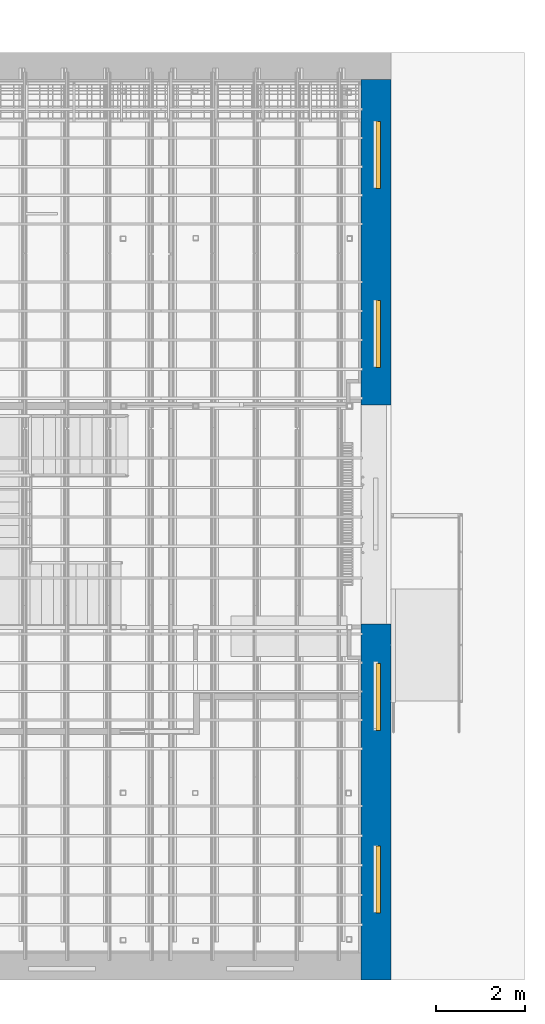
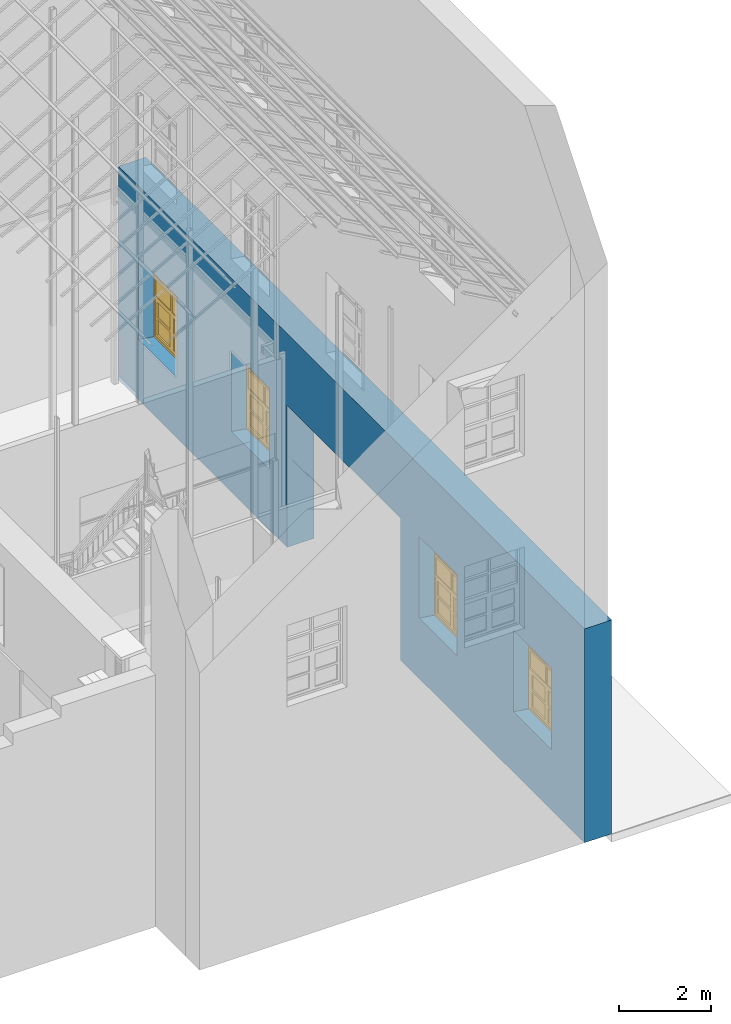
# One storey, part 41 of 75: 4 windows, 1 wall, 7 openings.
"""IFC2X3 building model written with IfcOpenShell, lengths in metres."""

from ifc_helpers import new_model, entity, si_unit, converted_unit, derived_unit, direction, frame, frame_2d, origin, origin_2d_with_axis, place, context, subcontext, project, spatial, polyline, rectangle, outline, extrude, faceted_brep, source, transform, mapped, material, material_list, layer, layer_set, layer_usage, type_object, type_shapes, element, fill, save


model = new_model("IFC2X3")

# Units and contexts
model_context = context("Model", 3, precision=1e-05, world=origin(), true_north=direction((6.12303176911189e-17, 1.0)))
body_context = subcontext(model_context, "Body", "Model", "MODEL_VIEW")
ifc_project = project(units=[si_unit("LENGTHUNIT", "METRE"), si_unit("AREAUNIT", "SQUARE_METRE"), si_unit("VOLUMEUNIT", "CUBIC_METRE"), converted_unit("PLANEANGLEUNIT", "DEGREE", entity("IfcRatioMeasure", 0.0174532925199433), si_unit("PLANEANGLEUNIT", "RADIAN"), dimensions=[0, 0, 0, 0, 0, 0, 0]), si_unit("MASSUNIT", "GRAM", prefix="KILO"), derived_unit("MASSDENSITYUNIT", [(si_unit("MASSUNIT", "GRAM", prefix="KILO"), 1), (si_unit("LENGTHUNIT", "METRE"), -3)]), derived_unit("MOMENTOFINERTIAUNIT", [(si_unit("LENGTHUNIT", "METRE"), 4)]), si_unit("TIMEUNIT", "SECOND"), si_unit("FREQUENCYUNIT", "HERTZ"), si_unit("THERMODYNAMICTEMPERATUREUNIT", "DEGREE_CELSIUS"), derived_unit("THERMALTRANSMITTANCEUNIT", [(si_unit("MASSUNIT", "GRAM", prefix="KILO"), 1), (si_unit("THERMODYNAMICTEMPERATUREUNIT", "KELVIN"), -1), (si_unit("TIMEUNIT", "SECOND"), -3)]), derived_unit("VOLUMETRICFLOWRATEUNIT", [(si_unit("LENGTHUNIT", "METRE"), 3), (si_unit("TIMEUNIT", "SECOND"), -1)]), si_unit("ELECTRICCURRENTUNIT", "AMPERE"), si_unit("ELECTRICVOLTAGEUNIT", "VOLT"), si_unit("POWERUNIT", "WATT"), si_unit("FORCEUNIT", "NEWTON", prefix="KILO"), si_unit("ILLUMINANCEUNIT", "LUX"), si_unit("LUMINOUSFLUXUNIT", "LUMEN"), si_unit("LUMINOUSINTENSITYUNIT", "CANDELA"), derived_unit("USERDEFINED", [(si_unit("MASSUNIT", "GRAM", prefix="KILO"), -1), (si_unit("LENGTHUNIT", "METRE"), -2), (si_unit("TIMEUNIT", "SECOND"), 3), (si_unit("LUMINOUSFLUXUNIT", "LUMEN"), 1)]), derived_unit("LINEARVELOCITYUNIT", [(si_unit("LENGTHUNIT", "METRE"), 1), (si_unit("TIMEUNIT", "SECOND"), -1)]), si_unit("PRESSUREUNIT", "PASCAL"), derived_unit("USERDEFINED", [(si_unit("LENGTHUNIT", "METRE"), -2), (si_unit("MASSUNIT", "GRAM", prefix="KILO"), 1), (si_unit("TIMEUNIT", "SECOND"), -2)]), derived_unit("LINEARFORCEUNIT", [(si_unit("MASSUNIT", "GRAM", prefix="KILO"), 1), (si_unit("LENGTHUNIT", "METRE"), 1), (si_unit("TIMEUNIT", "SECOND"), -2), (si_unit("LENGTHUNIT", "METRE"), -1)]), derived_unit("PLANARFORCEUNIT", [(si_unit("MASSUNIT", "GRAM", prefix="KILO"), 1), (si_unit("LENGTHUNIT", "METRE"), 1), (si_unit("TIMEUNIT", "SECOND"), -2), (si_unit("LENGTHUNIT", "METRE"), -2)])], contexts=[model_context])

# Site, building, storey
site_placement = place(None, origin())
site = spatial("IfcSite", under=ifc_project, at=site_placement, Name="Superficie", CompositionType="ELEMENT")
building_placement = place(site_placement, origin())
building = spatial("IfcBuilding", under=site, at=building_placement, Name="Telegestiones", CompositionType="ELEMENT")
storey_placement = place(building_placement, origin())
storey = spatial("IfcBuildingStorey", under=building, at=storey_placement, Name="Nivel 0_NPT", CompositionType="ELEMENT", Elevation=0.0)

# Wall, openings, windows
ifc_material_1 = material(Name="Albañilería expuesta")
ifc_layer_1 = layer(ifc_material_1, 0.12)
ifc_material_2 = material(Name="Muro por defecto")
ifc_layer_2 = layer(ifc_material_2, 0.56)
ifc_layer_set = layer_set([ifc_layer_1, ifc_layer_2], Name="Muro básico:ARQ-MU-EX-68-Lad")
ifc_layer_usage = layer_usage(ifc_layer_set, "AXIS2", "NEGATIVE", 0.34)
wall_type = type_object("IfcWallType", Name="Muro básico:ARQ-MU-EX-68-Lad", PredefinedType="STANDARD", material=ifc_layer_set)
wall_placement = place(storey_placement, frame((15.3048126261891, 13.7436072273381, -0.2), z_axis=(0.0, 0.0, 1.0), x_axis=(0.0, -1.0, 0.0)))
wall = element("IfcWallStandardCase", 1, at=wall_placement, inside=storey, type_object=wall_type, material=ifc_layer_usage, Name="Muro básico:ARQ-MU-EX-68-Lad", ObjectType="Muro básico:ARQ-MU-EX-68-Lad", context=body_context, shape_type="SweptSolid", body=[
    extrude(rectangle(XDim=20.1499743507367, YDim=0.680000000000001, at=frame_2d((10.0749871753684, 1.38777878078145e-16), x_axis=(-1.0, 0.0))), origin(), (0.0, 0.0, 1.0), 5.65000000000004),
])
opening_1_placement = place(wall_placement, frame((18.7300000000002, -0.34, 1.59999999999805)))
element("IfcOpeningElement", 2, at=opening_1_placement, cuts=wall, Name="Muro básico:ARQ-MU-EX-68-Lad", ObjectType="Opening", context=body_context, shape_type="Brep", body=[
    faceted_brep([(-0.0800000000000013, 0.0, 0.0), (-0.0800000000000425, 0.390000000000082, 0.0), (0.0, 0.0, 0.0), (-0.0800000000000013, 0.0, 2.15), (0.0, 0.0, 2.15), (-0.0800000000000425, 0.390000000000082, 2.15)], [[[0, 1, 2]], [[3, 4, 5]], [[4, 3, 0, 2]], [[5, 4, 2, 1]], [[3, 5, 1, 0]]]),
    faceted_brep([(-13.7700000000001, 0.389999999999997, 2.15), (-13.7700000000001, 0.0, 2.15), (-13.7700000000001, 0.0, 0.0), (-13.7700000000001, 0.389999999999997, 0.0), (-13.8500000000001, 0.0, 2.15), (-13.8500000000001, 0.0, 0.0)], [[[0, 1, 2, 3]], [[4, 0, 3, 5]], [[1, 4, 5, 2]], [[1, 0, 4]], [[2, 5, 3]]]),
    faceted_brep([(-12.2000000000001, 0.0, 2.15), (-12.2800000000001, 0.0, 2.15), (-12.2800000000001, 0.0, 0.0), (-12.2000000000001, 0.0, 0.0), (-12.2800000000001, 0.390000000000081, 2.15), (-12.2800000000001, 0.390000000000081, 0.0)], [[[0, 1, 2, 3]], [[4, 0, 3, 5]], [[1, 4, 5, 2]], [[1, 0, 4]], [[2, 5, 3]]]),
    faceted_brep([(-17.7800000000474, 0.390000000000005, 2.15), (-17.7800000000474, 0.0, 2.15), (-17.7800000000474, 0.0, 0.0), (-17.7800000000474, 0.390000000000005, 0.0), (-17.8600000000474, 0.0, 2.15), (-17.8600000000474, 0.0, 0.0)], [[[0, 1, 2, 3]], [[4, 0, 3, 5]], [[1, 4, 5, 2]], [[1, 0, 4]], [[2, 5, 3]]]),
    faceted_brep([(-16.21, 0.0, 2.15), (-16.29, 0.0, 2.15), (-16.29, 0.0, 0.0), (-16.21, 0.0, 0.0), (-16.2900000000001, 0.390000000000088, 2.15), (-16.2900000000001, 0.390000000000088, 0.0)], [[[0, 1, 2, 3]], [[4, 0, 3, 5]], [[1, 4, 5, 2]], [[1, 0, 4]], [[2, 5, 3]]]),
    faceted_brep([(-5.65000000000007, 0.389999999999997, 2.15), (-5.65000000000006, 0.0, 2.15), (-5.65000000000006, 0.0, 0.0), (-5.65000000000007, 0.389999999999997, 0.0), (-5.73000000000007, 0.0, 2.15), (-5.73000000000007, 0.0, 0.0)], [[[0, 1, 2, 3]], [[4, 0, 3, 5]], [[1, 4, 5, 2]], [[1, 0, 4]], [[2, 5, 3]]]),
    faceted_brep([(-4.08, 0.0, 2.15), (-4.16, 0.0, 2.15), (-4.16, 0.0, 0.0), (-4.08, 0.0, 0.0), (-4.16000000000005, 0.390000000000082, 2.15), (-4.16000000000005, 0.390000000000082, 0.0)], [[[0, 1, 2, 3]], [[4, 0, 3, 5]], [[1, 4, 5, 2]], [[1, 0, 4]], [[2, 5, 3]]]),
    faceted_brep([(-1.57000000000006, 0.389999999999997, 2.15), (-1.57000000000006, 0.0, 2.15), (-1.57000000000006, 0.0, 0.0), (-1.57000000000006, 0.389999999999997, 0.0), (-1.65000000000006, 0.0, 2.15), (-1.65000000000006, 0.0, 0.0)], [[[0, 1, 2, 3]], [[4, 0, 3, 5]], [[1, 4, 5, 2]], [[1, 0, 4]], [[2, 5, 3]]]),
])
opening_2_placement = place(wall_placement, origin())
element("IfcOpeningElement", 3, at=opening_2_placement, cuts=wall, Name="Muro básico:ARQ-MU-EX-68-Lad", ObjectType="Opening", context=body_context, shape_type="SweptSolid", body=[
    extrude(rectangle(XDim=3.74999999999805, YDim=4.9, at=origin_2d_with_axis()), frame((9.73500004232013, 0.339999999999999, 1.87499999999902), z_axis=(0.0, -1.0, 0.0), x_axis=(0.0, 0.0, 1.0)), (0.0, 0.0, 1.0), 0.68),
])
opening_3_placement = place(wall_placement, frame((12.1850000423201, 0.339999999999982, 0.2)))
element("IfcOpeningElement", 4, at=opening_3_placement, cuts=wall, Name="ARQ-MAM-EX-490x350-Vid:ARQ-MAM-EX-490x350-Vid:1", ObjectType="Opening", context=body_context, shape_type="SweptSolid", body=[
    extrude(rectangle(XDim=3.54999999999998, YDim=4.9, at=frame_2d((1.77499999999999, 2.45), x_axis=(1.0, 0.0))), frame((0.0, 0.0, 0.0), z_axis=(0.0, -1.0, 0.0), x_axis=(0.0, 0.0, 1.0)), (0.0, 0.0, 1.0), 0.68),
])
opening_4_placement = place(wall_placement, frame((17.1500000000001, -0.340000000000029, 1.59999999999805)))
opening_4 = element("IfcOpeningElement", 5, at=opening_4_placement, cuts=wall, Name="ARQ-VE-EX-215x170-Ace:ARQ-VE-EX-215x170-Ace:1", ObjectType="Opening", context=body_context, shape_type="SweptSolid", body=[
    extrude(rectangle(XDim=2.15, YDim=1.5, at=frame_2d((1.075, 0.749999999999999), x_axis=(1.0, 0.0))), frame((0.0, 0.0, 0.0), z_axis=(0.0, 1.0, 0.0), x_axis=(0.0, 0.0, 1.0)), (0.0, 0.0, 1.0), 0.68),
])
opening_5_placement = place(wall_placement, frame((13.0700000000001, -0.340000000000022, 1.59999999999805)))
opening_5 = element("IfcOpeningElement", 6, at=opening_5_placement, cuts=wall, Name="ARQ-VE-EX-215x170-Ace:ARQ-VE-EX-215x170-Ace:1", ObjectType="Opening", context=body_context, shape_type="SweptSolid", body=[
    extrude(rectangle(XDim=2.15, YDim=1.5, at=frame_2d((1.075, 0.749999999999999), x_axis=(1.0, 0.0))), frame((0.0, 0.0, 0.0), z_axis=(0.0, 1.0, 0.0), x_axis=(0.0, 0.0, 1.0)), (0.0, 0.0, 1.0), 0.68),
])
opening_6_placement = place(wall_placement, frame((4.95000000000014, -0.340000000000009, 1.59999999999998)))
opening_6 = element("IfcOpeningElement", 7, at=opening_6_placement, cuts=wall, Name="ARQ-VE-EX-215x170-Ace:ARQ-VE-EX-215x170-Ace:1", ObjectType="Opening", context=body_context, shape_type="SweptSolid", body=[
    extrude(rectangle(XDim=2.15, YDim=1.5, at=frame_2d((1.075, 0.75), x_axis=(1.0, 0.0))), frame((0.0, 0.0, 0.0), z_axis=(0.0, 1.0, 0.0), x_axis=(0.0, 0.0, 1.0)), (0.0, 0.0, 1.0), 0.68),
])
opening_7_placement = place(wall_placement, frame((0.940000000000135, -0.340000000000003, 1.59999999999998)))
opening_7 = element("IfcOpeningElement", 8, at=opening_7_placement, cuts=wall, Name="ARQ-VE-EX-215x170-Ace:ARQ-VE-EX-215x170-Ace:1", ObjectType="Opening", context=body_context, shape_type="SweptSolid", body=[
    extrude(rectangle(XDim=2.15, YDim=1.5, at=frame_2d((1.075, 0.75), x_axis=(1.0, 0.0))), frame((0.0, 0.0, 0.0), z_axis=(0.0, 1.0, 0.0), x_axis=(0.0, 0.0, 1.0)), (0.0, 0.0, 1.0), 0.68),
])
ifc_material_3 = material(Name="Nogal")
ifc_material_4 = material(Name="Vidrio")
ifc_material_list_1 = material_list([ifc_material_3, ifc_material_4, ifc_material_4, ifc_material_4, ifc_material_4, ifc_material_3, ifc_material_4, ifc_material_4, ifc_material_4, ifc_material_4, ifc_material_3])
ifc_material_list_2 = material_list([ifc_material_3, ifc_material_4, ifc_material_4, ifc_material_4, ifc_material_4, ifc_material_3, ifc_material_4, ifc_material_4, ifc_material_4, ifc_material_4, ifc_material_3])
window_style_1 = type_object("IfcWindowStyle", Name="ARQ-VE-EX-215x170-Ace:ARQ-VE-EX-215x170-Ace", ConstructionType="NOTDEFINED", OperationType="NOTDEFINED", ParameterTakesPrecedence=False, Sizeable=False, material=ifc_material_list_2)
shared_shape_1 = source(origin(), body_context, "Body", "SweptSolid", [
    extrude(outline(polyline([(-0.75, -1.075), (0.75, -1.075), (0.75, 1.075), (-0.75, 1.075), (-0.75, -1.075)]), holes=[polyline([(0.0249999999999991, -1.025), (0.0249999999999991, -0.549999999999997), (0.7, -0.550000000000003), (0.7, -1.025), (0.0249999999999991, -1.025)]), polyline([(0.7, -0.500000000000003), (0.0249999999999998, -0.500000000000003), (0.0249999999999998, -0.0249999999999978), (0.7, -0.0250000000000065), (0.7, -0.500000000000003)]), polyline([(-0.7, -0.550000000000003), (-0.0250000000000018, -0.550000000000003), (-0.0250000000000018, -1.025), (-0.7, -1.025), (-0.7, -0.550000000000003)]), polyline([(0.7, 0.0250000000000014), (-0.7, 0.0250000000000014), (-0.7, 1.025), (0.7, 1.025), (0.7, 0.0250000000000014)]), polyline([(-0.0250000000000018, -0.0250000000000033), (-0.0250000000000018, -0.499999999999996), (-0.7, -0.500000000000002), (-0.7, -0.0250000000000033), (-0.0250000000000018, -0.0250000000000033)])]), frame((0.750000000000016, 0.44, 1.075), z_axis=(0.0, -1.0, 0.0), x_axis=(-1.0, 0.0, 0.0)), (0.0, 0.0, 1.0), 0.1),
    extrude(rectangle(XDim=0.675000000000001, YDim=0.01, at=frame_2d((-2.77555756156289e-17, -2.16840434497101e-18), x_axis=(1.0, 0.0))), frame((0.387500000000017, 0.365, 1.1)), (0.0, 0.0, 1.0), 0.475000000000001),
    extrude(rectangle(XDim=0.674999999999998, YDim=0.01, at=frame_2d((0.0, 2.16840434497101e-18), x_axis=(1.0, 0.0))), frame((1.11250000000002, 0.365, 1.625)), (0.0, 0.0, 1.0), 0.474999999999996),
    extrude(rectangle(XDim=0.675000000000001, YDim=0.01, at=frame_2d((0.0, -2.16840434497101e-18), x_axis=(1.0, 0.0))), frame((0.387500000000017, 0.365, 1.625)), (0.0, 0.0, 1.0), 0.475),
    extrude(rectangle(XDim=0.674999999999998, YDim=0.01, at=frame_2d((0.0, 2.16840434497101e-18), x_axis=(1.0, 0.0))), frame((1.11250000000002, 0.365, 1.1)), (0.0, 0.0, 1.0), 0.474999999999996),
    extrude(outline(polyline([(-0.499999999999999, -0.349999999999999), (0.500000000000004, -0.349999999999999), (0.5, 0.350000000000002), (-0.500000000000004, 0.349999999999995), (-0.499999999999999, -0.349999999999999)]), holes=[polyline([(0.430000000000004, -0.279999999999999), (0.0250000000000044, -0.279999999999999), (0.025000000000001, 0.279999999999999), (0.43, 0.280000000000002), (0.430000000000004, -0.279999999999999)]), polyline([(-0.024999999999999, 0.280000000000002), (-0.0249999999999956, -0.279999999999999), (-0.429999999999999, -0.279999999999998), (-0.430000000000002, 0.279999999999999), (-0.024999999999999, 0.280000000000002)])]), frame((1.10000000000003, 0.43, 0.549999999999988), z_axis=(0.0, -1.0, 0.0), x_axis=(0.0, 0.0, -1.0)), (0.0, 0.0, 1.0), 0.08),
    extrude(rectangle(XDim=0.56, YDim=0.02, at=frame_2d((0.0, -4.33680868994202e-18), x_axis=(1.0, 0.0))), frame((0.400000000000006, 0.39, 0.574999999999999)), (0.0, 0.0, 1.0), 0.405000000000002),
    extrude(rectangle(XDim=0.56, YDim=0.02, at=frame_2d((2.77555756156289e-17, 4.33680868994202e-18), x_axis=(1.0, 0.0))), frame((1.10000000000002, 0.39, 0.574999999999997)), (0.0, 0.0, 1.0), 0.405000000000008),
    extrude(rectangle(XDim=0.56, YDim=0.02, at=frame_2d((2.77555756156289e-17, 4.33680868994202e-18), x_axis=(1.0, 0.0))), frame((1.10000000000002, 0.39, 0.12)), (0.0, 0.0, 1.0), 0.404999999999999),
    extrude(rectangle(XDim=0.56, YDim=0.02, at=frame_2d((0.0, -4.33680868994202e-18), x_axis=(1.0, 0.0))), frame((0.400000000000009, 0.39, 0.12)), (0.0, 0.0, 1.0), 0.404999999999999),
    extrude(outline(polyline([(-0.350000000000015, -0.500000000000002), (0.350000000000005, -0.500000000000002), (0.350000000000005, 0.500000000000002), (-0.349999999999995, 0.500000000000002), (-0.350000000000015, -0.500000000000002)]), holes=[polyline([(-0.279999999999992, 0.430000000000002), (0.280000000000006, 0.430000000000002), (0.280000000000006, 0.0250000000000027), (-0.279999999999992, 0.0250000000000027), (-0.279999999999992, 0.430000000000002)]), polyline([(0.280000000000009, -0.0249999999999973), (0.280000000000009, -0.430000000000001), (-0.279999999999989, -0.429999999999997), (-0.279999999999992, -0.0249999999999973), (0.280000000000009, -0.0249999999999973)])]), frame((0.400000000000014, 0.43, 0.550000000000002), z_axis=(0.0, -1.0, 0.0), x_axis=(-1.0, 0.0, 0.0)), (0.0, 0.0, 1.0), 0.08),
])
type_shapes(window_style_1, [shared_shape_1])
window_1_placement = place(opening_7_placement, origin())
window_1 = element("IfcWindow", 9, at=window_1_placement, inside=storey, type_object=window_style_1, material=ifc_material_list_1, Name="ARQ-VE-EX-215x170-Ace:ARQ-VE-EX-215x170-Ace", ObjectType="ARQ-VE-EX-215x170-Ace:ARQ-VE-EX-215x170-Ace", OverallHeight=2.15, OverallWidth=1.5, context=body_context, shape_type="MappedRepresentation", body=[
    mapped(shared_shape_1, transform((0.0, 0.0, 0.0), scale=1.0)),
])
fill(opening_7, window_1)
ifc_material_list_3 = material_list([ifc_material_3, ifc_material_4, ifc_material_4, ifc_material_4, ifc_material_4, ifc_material_3, ifc_material_4, ifc_material_4, ifc_material_4, ifc_material_4, ifc_material_3])
ifc_material_list_4 = material_list([ifc_material_3, ifc_material_4, ifc_material_4, ifc_material_4, ifc_material_4, ifc_material_3, ifc_material_4, ifc_material_4, ifc_material_4, ifc_material_4, ifc_material_3])
window_style_2 = type_object("IfcWindowStyle", Name="ARQ-VE-EX-215x170-Ace:ARQ-VE-EX-215x170-Ace", ConstructionType="NOTDEFINED", OperationType="NOTDEFINED", ParameterTakesPrecedence=False, Sizeable=False, material=ifc_material_list_4)
shared_shape_2 = source(origin(), body_context, "Body", "SweptSolid", [
    extrude(outline(polyline([(-0.75, -1.075), (0.75, -1.075), (0.75, 1.075), (-0.75, 1.075), (-0.75, -1.075)]), holes=[polyline([(0.7, -0.500000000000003), (0.0249999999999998, -0.500000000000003), (0.0249999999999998, -0.0249999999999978), (0.7, -0.0250000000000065), (0.7, -0.500000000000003)]), polyline([(0.0249999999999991, -1.025), (0.0249999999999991, -0.549999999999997), (0.7, -0.550000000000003), (0.7, -1.025), (0.0249999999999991, -1.025)]), polyline([(-0.7, -0.550000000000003), (-0.0250000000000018, -0.550000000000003), (-0.0250000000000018, -1.025), (-0.7, -1.025), (-0.7, -0.550000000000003)]), polyline([(0.7, 0.0250000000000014), (-0.7, 0.0250000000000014), (-0.7, 1.025), (0.7, 1.025), (0.7, 0.0250000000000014)]), polyline([(-0.0250000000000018, -0.0250000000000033), (-0.0250000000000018, -0.499999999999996), (-0.7, -0.500000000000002), (-0.7, -0.0250000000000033), (-0.0250000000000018, -0.0250000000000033)])]), frame((0.75, 0.34, 1.075), z_axis=(0.0, 1.0, 0.0), x_axis=(1.0, 0.0, 0.0)), (0.0, 0.0, 1.0), 0.1),
    extrude(rectangle(XDim=0.01, YDim=0.675000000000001, at=frame_2d((-2.16840434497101e-18, -2.77555756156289e-17), x_axis=(1.0, 0.0))), frame((1.1125, 0.365, 1.1), z_axis=(0.0, 0.0, 1.0), x_axis=(0.0, 1.0, 0.0)), (0.0, 0.0, 1.0), 0.475000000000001),
    extrude(rectangle(XDim=0.01, YDim=0.674999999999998, at=frame_2d((2.16840434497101e-18, 0.0), x_axis=(1.0, 0.0))), frame((0.387499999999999, 0.365, 1.625), z_axis=(0.0, 0.0, 1.0), x_axis=(0.0, 1.0, 0.0)), (0.0, 0.0, 1.0), 0.474999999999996),
    extrude(rectangle(XDim=0.01, YDim=0.675000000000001, at=frame_2d((-2.16840434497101e-18, -2.77555756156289e-17), x_axis=(1.0, 0.0))), frame((1.1125, 0.365, 1.625), z_axis=(0.0, 0.0, 1.0), x_axis=(0.0, 1.0, 0.0)), (0.0, 0.0, 1.0), 0.475),
    extrude(rectangle(XDim=0.01, YDim=0.674999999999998, at=frame_2d((1.73472347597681e-18, 0.0), x_axis=(1.0, 0.0))), frame((0.387499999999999, 0.365, 1.1), z_axis=(0.0, 0.0, 1.0), x_axis=(0.0, 1.0, 0.0)), (0.0, 0.0, 1.0), 0.474999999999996),
    extrude(outline(polyline([(-0.499999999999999, -0.349999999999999), (0.500000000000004, -0.349999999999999), (0.5, 0.350000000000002), (-0.500000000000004, 0.349999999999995), (-0.499999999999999, -0.349999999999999)]), holes=[polyline([(0.430000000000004, -0.279999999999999), (0.0250000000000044, -0.279999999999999), (0.025000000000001, 0.279999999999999), (0.43, 0.280000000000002), (0.430000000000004, -0.279999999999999)]), polyline([(-0.024999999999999, 0.280000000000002), (-0.0249999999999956, -0.279999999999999), (-0.429999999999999, -0.279999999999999), (-0.430000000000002, 0.279999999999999), (-0.024999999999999, 0.280000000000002)])]), frame((0.399999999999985, 0.35, 0.549999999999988), z_axis=(0.0, 1.0, 0.0), x_axis=(0.0, 0.0, -1.0)), (0.0, 0.0, 1.0), 0.08),
    extrude(rectangle(XDim=0.02, YDim=0.56, at=frame_2d((4.33680868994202e-18, 0.0), x_axis=(1.0, 0.0))), frame((1.10000000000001, 0.39, 0.574999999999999), z_axis=(0.0, 0.0, 1.0), x_axis=(0.0, 1.0, 0.0)), (0.0, 0.0, 1.0), 0.405000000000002),
    extrude(rectangle(XDim=0.02, YDim=0.56, at=frame_2d((4.33680868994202e-18, 2.77555756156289e-17), x_axis=(1.0, 0.0))), frame((0.4, 0.39, 0.574999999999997), z_axis=(0.0, 0.0, 1.0), x_axis=(0.0, 1.0, 0.0)), (0.0, 0.0, 1.0), 0.405000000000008),
    extrude(rectangle(XDim=0.02, YDim=0.56, at=frame_2d((4.33680868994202e-18, 2.77555756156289e-17), x_axis=(1.0, 0.0))), frame((0.4, 0.39, 0.12), z_axis=(0.0, 0.0, 1.0), x_axis=(0.0, 1.0, 0.0)), (0.0, 0.0, 1.0), 0.404999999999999),
    extrude(rectangle(XDim=0.02, YDim=0.56, at=frame_2d((4.33680868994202e-18, 0.0), x_axis=(1.0, 0.0))), frame((1.10000000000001, 0.39, 0.12), z_axis=(0.0, 0.0, 1.0), x_axis=(0.0, 1.0, 0.0)), (0.0, 0.0, 1.0), 0.404999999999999),
    extrude(outline(polyline([(-0.350000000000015, -0.500000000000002), (0.350000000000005, -0.500000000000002), (0.350000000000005, 0.500000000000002), (-0.349999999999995, 0.500000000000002), (-0.350000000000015, -0.500000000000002)]), holes=[polyline([(-0.279999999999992, 0.430000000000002), (0.280000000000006, 0.430000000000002), (0.280000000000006, 0.0250000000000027), (-0.279999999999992, 0.0250000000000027), (-0.279999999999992, 0.430000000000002)]), polyline([(0.280000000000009, -0.0249999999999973), (0.280000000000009, -0.430000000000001), (-0.279999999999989, -0.429999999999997), (-0.279999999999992, -0.0249999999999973), (0.280000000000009, -0.0249999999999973)])]), frame((1.1, 0.35, 0.550000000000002), z_axis=(0.0, 1.0, 0.0), x_axis=(1.0, 0.0, 0.0)), (0.0, 0.0, 1.0), 0.08),
])
type_shapes(window_style_2, [shared_shape_2])
window_2_placement = place(opening_4_placement, origin())
window_2 = element("IfcWindow", 10, at=window_2_placement, inside=storey, type_object=window_style_2, material=ifc_material_list_3, Name="ARQ-VE-EX-215x170-Ace:ARQ-VE-EX-215x170-Ace", ObjectType="ARQ-VE-EX-215x170-Ace:ARQ-VE-EX-215x170-Ace", OverallHeight=2.15, OverallWidth=1.5, context=body_context, shape_type="MappedRepresentation", body=[
    mapped(shared_shape_2, transform((0.0, 0.0, 0.0), scale=1.0)),
])
fill(opening_4, window_2)
ifc_material_list_5 = material_list([ifc_material_3, ifc_material_4])
window_3_placement = place(opening_5_placement, origin())
window_3 = element("IfcWindow", 11, at=window_3_placement, inside=storey, type_object=window_style_2, material=ifc_material_list_5, Name="ARQ-VE-EX-215x170-Ace:ARQ-VE-EX-215x170-Ace", ObjectType="ARQ-VE-EX-215x170-Ace:ARQ-VE-EX-215x170-Ace", OverallHeight=2.15, OverallWidth=1.5, context=body_context, shape_type="MappedRepresentation", body=[
    mapped(shared_shape_2, transform((0.0, 0.0, 0.0), scale=1.0)),
])
fill(opening_5, window_3)
ifc_material_list_6 = material_list([ifc_material_3, ifc_material_4])
window_4_placement = place(opening_6_placement, origin())
window_4 = element("IfcWindow", 12, at=window_4_placement, inside=storey, type_object=window_style_2, material=ifc_material_list_6, Name="ARQ-VE-EX-215x170-Ace:ARQ-VE-EX-215x170-Ace", ObjectType="ARQ-VE-EX-215x170-Ace:ARQ-VE-EX-215x170-Ace", OverallHeight=2.15, OverallWidth=1.5, context=body_context, shape_type="MappedRepresentation", body=[
    mapped(shared_shape_2, transform((0.0, 0.0, 0.0), scale=1.0)),
])
fill(opening_6, window_4)

save(model, "model.ifc")
